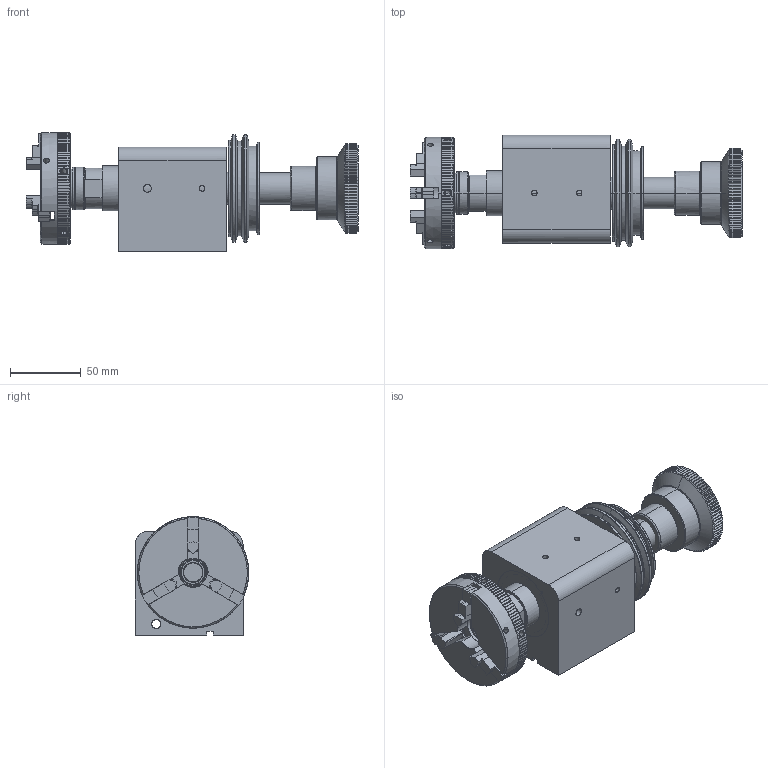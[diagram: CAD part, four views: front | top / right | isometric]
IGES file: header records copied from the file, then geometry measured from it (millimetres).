
Start section: Comment
Global section: file name: 3 collect head stock W 10670. 10401asm.igs; native system:  By Spatial Corp.; preprocessor: XPlus PS/IGES 3.0; author: Author; organization: Title; date: 20180308.063001; units: inch
Bounding box: 234.69 x 80.26 x 83.82 mm (x, y, z)
Surface area: 138954.5 mm2 (no closed solid volume)
Topology: 0 solids, 0 shells, 1453 faces, 7344 edges, 7324 vertices
Faces by surface type: revolution 849, extrusion 604
